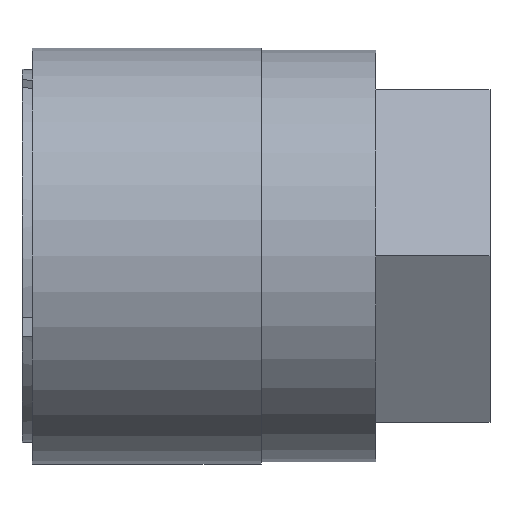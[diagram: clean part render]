
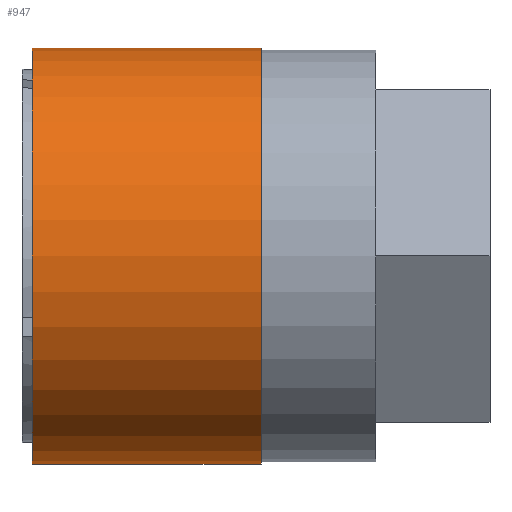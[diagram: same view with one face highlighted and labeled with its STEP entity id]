
A CAD part, front view. The second image highlights one B-rep face of the part: STEP entity #947.
In plain terms, the highlighted cylindrical face has radius 10 mm (diameter 20 mm), a partial arc.
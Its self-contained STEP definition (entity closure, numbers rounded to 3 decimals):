
#223 = AXIS2_PLACEMENT_3D ( 'NONE', #802, #792, #791 ) ;
#226 = AXIS2_PLACEMENT_3D ( 'NONE', #789, #774, #772 ) ;
#293 = ORIENTED_EDGE ( 'NONE', *, *, #1669, .T. ) ;
#294 = ORIENTED_EDGE ( 'NONE', *, *, #1665, .T. ) ;
#310 = ORIENTED_EDGE ( 'NONE', *, *, #1664, .F. ) ;
#338 = EDGE_LOOP ( 'NONE', ( #403, #293, #294, #310 ) ) ;
#403 = ORIENTED_EDGE ( 'NONE', *, *, #1666, .F. ) ;
#473 = FACE_OUTER_BOUND ( 'NONE', #338, .T. ) ;
#482 = CYLINDRICAL_SURFACE ( 'NONE', #1135, 10. ) ;
#747 = CARTESIAN_POINT ( 'NONE',  ( 11.5, 0., 10. ) ) ;
#759 = CARTESIAN_POINT ( 'NONE',  ( 0.5, 0., 10. ) ) ;
#772 = DIRECTION ( 'NONE',  ( 0., 0., 1. ) ) ;
#774 = DIRECTION ( 'NONE',  ( -1., 0., 0. ) ) ;
#784 = DIRECTION ( 'NONE',  ( -1., 0., 0. ) ) ;
#787 = DIRECTION ( 'NONE',  ( -1., 0., 0. ) ) ;
#788 = CARTESIAN_POINT ( 'NONE',  ( 0., 0., 10. ) ) ;
#789 = CARTESIAN_POINT ( 'NONE',  ( 11.5, 0., 0. ) ) ;
#791 = DIRECTION ( 'NONE',  ( 0., 0., 1. ) ) ;
#792 = DIRECTION ( 'NONE',  ( -1., 0., 0. ) ) ;
#796 = CARTESIAN_POINT ( 'NONE',  ( 0., 0., -10. ) ) ;
#802 = CARTESIAN_POINT ( 'NONE',  ( 0.5, 0., 0. ) ) ;
#924 = CARTESIAN_POINT ( 'NONE',  ( 0.5, 0., -10. ) ) ;
#925 = CARTESIAN_POINT ( 'NONE',  ( 11.5, 0., -10. ) ) ;
#947 = ADVANCED_FACE ( 'NONE', ( #473 ), #482, .T. ) ;
#1135 = AXIS2_PLACEMENT_3D ( 'NONE', #1365, #1364, #1360 ) ;
#1214 = VERTEX_POINT ( 'NONE', #759 ) ;
#1217 = VERTEX_POINT ( 'NONE', #747 ) ;
#1319 = VERTEX_POINT ( 'NONE', #925 ) ;
#1320 = VERTEX_POINT ( 'NONE', #924 ) ;
#1360 = DIRECTION ( 'NONE',  ( 0., 0., 1. ) ) ;
#1364 = DIRECTION ( 'NONE',  ( -1., 0., 0. ) ) ;
#1365 = CARTESIAN_POINT ( 'NONE',  ( 0., 0., 0. ) ) ;
#1485 = LINE ( 'NONE', #788, #1488 ) ;
#1488 = VECTOR ( 'NONE', #787, 1000. ) ;
#1490 = LINE ( 'NONE', #796, #1492 ) ;
#1491 = CIRCLE ( 'NONE', #223, 10. ) ;
#1492 = VECTOR ( 'NONE', #784, 1000. ) ;
#1496 = CIRCLE ( 'NONE', #226, 10. ) ;
#1664 = EDGE_CURVE ( 'NONE', #1320, #1214, #1491, .T. ) ;
#1665 = EDGE_CURVE ( 'NONE', #1217, #1214, #1485, .T. ) ;
#1666 = EDGE_CURVE ( 'NONE', #1319, #1320, #1490, .T. ) ;
#1669 = EDGE_CURVE ( 'NONE', #1319, #1217, #1496, .T. ) ;
